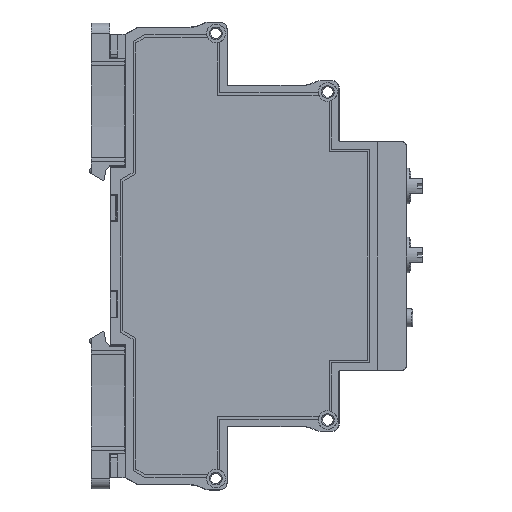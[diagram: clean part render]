
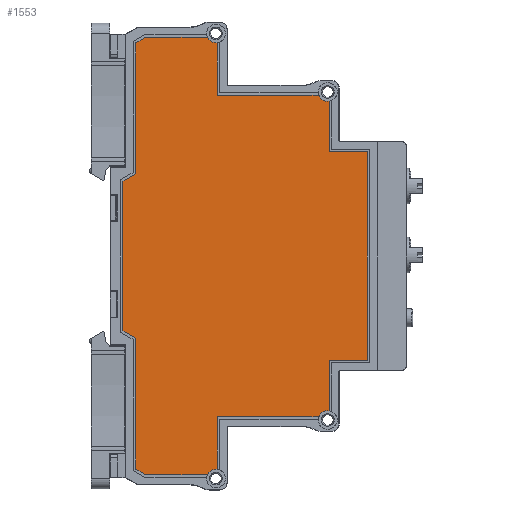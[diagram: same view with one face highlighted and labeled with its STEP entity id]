
A CAD part, front view. The second image highlights one B-rep face of the part: STEP entity #1553.
In plain terms, the highlighted planar face has unit normal (0, -1, 0) as drawn and (1, 0, 0) by its records, which use the part's own axes.
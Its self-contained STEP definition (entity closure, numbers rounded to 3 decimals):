
#1553=ADVANCED_FACE('',(#26766),#26768,.T.);
#26766=FACE_BOUND('',#26767,.T.);
#26767=EDGE_LOOP('',(#46919,#46920,#46921,#46922,#46923,#46924,#46925,#46926,#46927,
#46928,#46929,#46930,#46931,#46932,#46933,#46934,#46935,#46936,#46937,#46938,#46939,
#46940));
#26768=PLANE('',#26769);
#26769=AXIS2_PLACEMENT_3D('',#26770,#26771,#26772);
#26770=CARTESIAN_POINT('',(6.5,0.,0.));
#26771=DIRECTION('',(1.,0.,0.));
#26772=DIRECTION('',(0.,0.,-1.));
#46919=ORIENTED_EDGE('',*,*,#64337,.F.);
#46920=ORIENTED_EDGE('',*,*,#64338,.T.);
#46921=ORIENTED_EDGE('',*,*,#64255,.F.);
#46922=ORIENTED_EDGE('',*,*,#64339,.T.);
#46923=ORIENTED_EDGE('',*,*,#64340,.T.);
#46924=ORIENTED_EDGE('',*,*,#64341,.T.);
#46925=ORIENTED_EDGE('',*,*,#64342,.T.);
#46926=ORIENTED_EDGE('',*,*,#64343,.T.);
#46927=ORIENTED_EDGE('',*,*,#64239,.F.);
#46928=ORIENTED_EDGE('',*,*,#64344,.F.);
#46929=ORIENTED_EDGE('',*,*,#64345,.T.);
#46930=ORIENTED_EDGE('',*,*,#64249,.F.);
#46931=ORIENTED_EDGE('',*,*,#64346,.T.);
#46932=ORIENTED_EDGE('',*,*,#64347,.F.);
#46933=ORIENTED_EDGE('',*,*,#64348,.T.);
#46934=ORIENTED_EDGE('',*,*,#64349,.T.);
#46935=ORIENTED_EDGE('',*,*,#64350,.T.);
#46936=ORIENTED_EDGE('',*,*,#64351,.T.);
#46937=ORIENTED_EDGE('',*,*,#64352,.T.);
#46938=ORIENTED_EDGE('',*,*,#64353,.F.);
#46939=ORIENTED_EDGE('',*,*,#64354,.T.);
#46940=ORIENTED_EDGE('',*,*,#64265,.F.);
#64239=EDGE_CURVE('',#72289,#72274,#72291,.T.);
#64249=EDGE_CURVE('',#72309,#72294,#72311,.T.);
#64255=EDGE_CURVE('',#72321,#72323,#72324,.T.);
#64265=EDGE_CURVE('',#72341,#72343,#72344,.T.);
#64337=EDGE_CURVE('',#72482,#72341,#72483,.T.);
#64338=EDGE_CURVE('',#72482,#72323,#72484,.T.);
#64339=EDGE_CURVE('',#72321,#72485,#72486,.T.);
#64340=EDGE_CURVE('',#72485,#72487,#72488,.T.);
#64341=EDGE_CURVE('',#72487,#72489,#72490,.T.);
#64342=EDGE_CURVE('',#72489,#72491,#72492,.T.);
#64343=EDGE_CURVE('',#72491,#72274,#72493,.T.);
#64344=EDGE_CURVE('',#72494,#72289,#72495,.T.);
#64345=EDGE_CURVE('',#72494,#72294,#72496,.T.);
#64346=EDGE_CURVE('',#72309,#72497,#72498,.T.);
#64347=EDGE_CURVE('',#72499,#72497,#72500,.T.);
#64348=EDGE_CURVE('',#72499,#72501,#72502,.T.);
#64349=EDGE_CURVE('',#72501,#72503,#72504,.T.);
#64350=EDGE_CURVE('',#72503,#72505,#72506,.T.);
#64351=EDGE_CURVE('',#72505,#72507,#72508,.T.);
#64352=EDGE_CURVE('',#72507,#72509,#72510,.T.);
#64353=EDGE_CURVE('',#72511,#72509,#72512,.T.);
#64354=EDGE_CURVE('',#72511,#72343,#72513,.T.);
#72274=VERTEX_POINT('',#86281);
#72289=VERTEX_POINT('',#86314);
#72291=CIRCLE('',#86318,1.85);
#72294=VERTEX_POINT('',#86327);
#72309=VERTEX_POINT('',#86360);
#72311=CIRCLE('',#86364,1.85);
#72321=VERTEX_POINT('',#86388);
#72323=VERTEX_POINT('',#86392);
#72324=CIRCLE('',#86393,1.85);
#72341=VERTEX_POINT('',#86434);
#72343=VERTEX_POINT('',#86438);
#72344=CIRCLE('',#86439,1.85);
#72482=VERTEX_POINT('',#86743);
#72483=LINE('',#86744,#86745);
#72484=LINE('',#86747,#86748);
#72485=VERTEX_POINT('',#86750);
#72486=LINE('',#86751,#86752);
#72487=VERTEX_POINT('',#86754);
#72488=LINE('',#86755,#86756);
#72489=VERTEX_POINT('',#86758);
#72490=LINE('',#86759,#86760);
#72491=VERTEX_POINT('',#86762);
#72492=LINE('',#86763,#86764);
#72493=LINE('',#86766,#86767);
#72494=VERTEX_POINT('',#86769);
#72495=LINE('',#86770,#86771);
#72496=LINE('',#86773,#86774);
#72497=VERTEX_POINT('',#86776);
#72498=LINE('',#86777,#86778);
#72499=VERTEX_POINT('',#86780);
#72500=LINE('',#86781,#86782);
#72501=VERTEX_POINT('',#86784);
#72502=LINE('',#86785,#86786);
#72503=VERTEX_POINT('',#86788);
#72504=LINE('',#86789,#86790);
#72505=VERTEX_POINT('',#86792);
#72506=LINE('',#86793,#86794);
#72507=VERTEX_POINT('',#86796);
#72508=LINE('',#86797,#86798);
#72509=VERTEX_POINT('',#86800);
#72510=LINE('',#86801,#86802);
#72511=VERTEX_POINT('',#86804);
#72512=LINE('',#86805,#86806);
#72513=LINE('',#86808,#86809);
#86281=CARTESIAN_POINT('',(6.5,-30.541,38.985));
#86314=CARTESIAN_POINT('',(6.5,-31.7,37.015));
#86318=AXIS2_PLACEMENT_3D('',#86319,#86320,#86321);
#86319=CARTESIAN_POINT('',(6.5,-32.375,38.738));
#86320=DIRECTION('',(1.,0.,0.));
#86321=DIRECTION('',(0.,0.365,-0.931));
#86327=CARTESIAN_POINT('',(6.5,-42.103,16.897));
#86360=CARTESIAN_POINT('',(6.5,-43.2,14.953));
#86364=AXIS2_PLACEMENT_3D('',#86365,#86366,#86367);
#86365=CARTESIAN_POINT('',(6.5,-43.937,16.65));
#86366=DIRECTION('',(1.,0.,0.));
#86367=DIRECTION('',(0.,0.398,-0.917));
#86388=CARTESIAN_POINT('',(6.5,30.541,38.985));
#86392=CARTESIAN_POINT('',(6.5,31.7,37.015));
#86393=AXIS2_PLACEMENT_3D('',#86394,#86395,#86396);
#86394=CARTESIAN_POINT('',(6.5,32.375,38.738));
#86395=DIRECTION('',(1.,0.,0.));
#86396=DIRECTION('',(0.,-0.991,0.134));
#86434=CARTESIAN_POINT('',(6.5,42.103,16.897));
#86438=CARTESIAN_POINT('',(6.5,43.2,14.953));
#86439=AXIS2_PLACEMENT_3D('',#86440,#86441,#86442);
#86440=CARTESIAN_POINT('',(6.5,43.937,16.65));
#86441=DIRECTION('',(1.,0.,0.));
#86442=DIRECTION('',(0.,-0.991,0.134));
#86743=CARTESIAN_POINT('',(6.5,31.7,16.897));
#86744=CARTESIAN_POINT('',(6.5,31.7,16.897));
#86745=VECTOR('',#86746,1.);
#86746=DIRECTION('',(0.,1.,0.));
#86747=CARTESIAN_POINT('',(6.5,31.7,16.897));
#86748=VECTOR('',#86749,1.);
#86749=DIRECTION('',(0.,0.,1.));
#86750=CARTESIAN_POINT('',(6.5,20.6,38.985));
#86751=CARTESIAN_POINT('',(6.5,30.541,38.985));
#86752=VECTOR('',#86753,1.);
#86753=DIRECTION('',(0.,-1.,0.));
#86754=CARTESIAN_POINT('',(6.5,20.6,46.53));
#86755=CARTESIAN_POINT('',(6.5,20.6,38.985));
#86756=VECTOR('',#86757,1.);
#86757=DIRECTION('',(0.,0.,1.));
#86758=CARTESIAN_POINT('',(6.5,-20.6,46.53));
#86759=CARTESIAN_POINT('',(6.5,20.6,46.53));
#86760=VECTOR('',#86761,1.);
#86761=DIRECTION('',(0.,-1.,0.));
#86762=CARTESIAN_POINT('',(6.5,-20.6,38.985));
#86763=CARTESIAN_POINT('',(6.5,-20.6,46.53));
#86764=VECTOR('',#86765,1.);
#86765=DIRECTION('',(0.,0.,-1.));
#86766=CARTESIAN_POINT('',(6.5,-20.6,38.985));
#86767=VECTOR('',#86768,1.);
#86768=DIRECTION('',(0.,-1.,0.));
#86769=CARTESIAN_POINT('',(6.5,-31.7,16.897));
#86770=CARTESIAN_POINT('',(6.5,-31.7,16.897));
#86771=VECTOR('',#86772,1.);
#86772=DIRECTION('',(0.,0.,1.));
#86773=CARTESIAN_POINT('',(6.5,-31.7,16.897));
#86774=VECTOR('',#86775,1.);
#86775=DIRECTION('',(0.,-1.,0.));
#86776=CARTESIAN_POINT('',(6.5,-43.2,2.761));
#86777=CARTESIAN_POINT('',(6.5,-43.2,14.953));
#86778=VECTOR('',#86779,1.);
#86779=DIRECTION('',(0.,0.,-1.));
#86780=CARTESIAN_POINT('',(6.5,-42.068,0.8));
#86781=CARTESIAN_POINT('',(6.5,-42.068,0.8));
#86782=VECTOR('',#86783,1.);
#86783=DIRECTION('',(0.,-0.5,0.866));
#86784=CARTESIAN_POINT('',(6.5,-16.211,0.8));
#86785=CARTESIAN_POINT('',(6.5,-42.068,0.8));
#86786=VECTOR('',#86787,1.);
#86787=DIRECTION('',(0.,1.,0.));
#86788=CARTESIAN_POINT('',(6.5,-14.768,-1.7));
#86789=CARTESIAN_POINT('',(6.5,-16.211,0.8));
#86790=VECTOR('',#86791,1.);
#86791=DIRECTION('',(0.,0.5,-0.866));
#86792=CARTESIAN_POINT('',(6.5,14.768,-1.7));
#86793=CARTESIAN_POINT('',(6.5,-14.768,-1.7));
#86794=VECTOR('',#86795,1.);
#86795=DIRECTION('',(0.,1.,0.));
#86796=CARTESIAN_POINT('',(6.5,16.211,0.8));
#86797=CARTESIAN_POINT('',(6.5,14.768,-1.7));
#86798=VECTOR('',#86799,1.);
#86799=DIRECTION('',(0.,0.5,0.866));
#86800=CARTESIAN_POINT('',(6.5,42.068,0.8));
#86801=CARTESIAN_POINT('',(6.5,16.211,0.8));
#86802=VECTOR('',#86803,1.);
#86803=DIRECTION('',(0.,1.,0.));
#86804=CARTESIAN_POINT('',(6.5,43.2,2.761));
#86805=CARTESIAN_POINT('',(6.5,43.2,2.761));
#86806=VECTOR('',#86807,1.);
#86807=DIRECTION('',(0.,-0.5,-0.866));
#86808=CARTESIAN_POINT('',(6.5,43.2,2.761));
#86809=VECTOR('',#86810,1.);
#86810=DIRECTION('',(0.,0.,1.));
